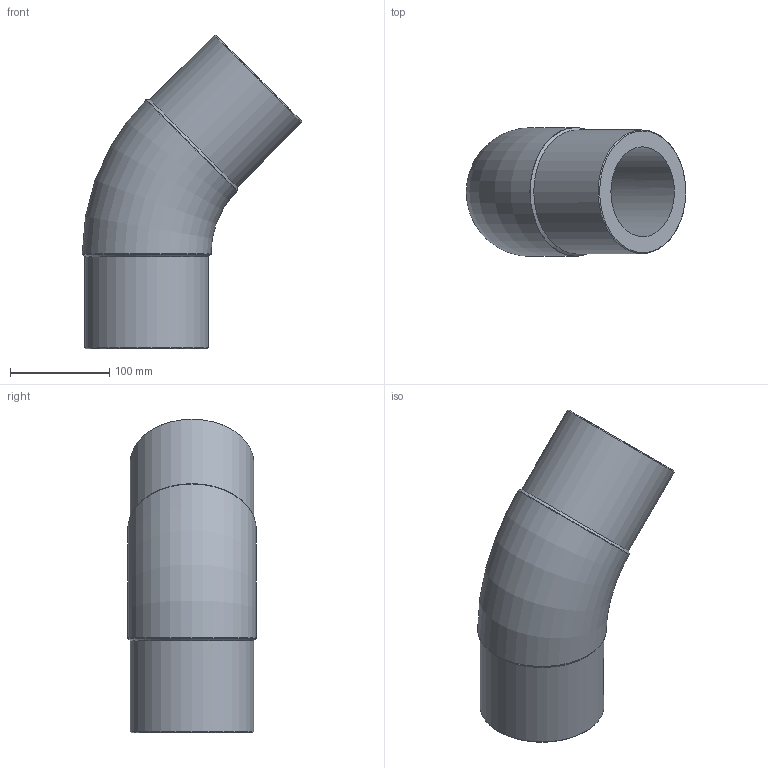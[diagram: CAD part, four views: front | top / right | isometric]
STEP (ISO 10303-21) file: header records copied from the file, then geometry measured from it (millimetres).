
FILE_DESCRIPTION(/* description */ ('Unknown'),/* implementation_level */ '2;1');
FILE_NAME(/* name */ 'G4P125H',/* time_stamp */ '2022-01-21T09:45:17+01:00',/* author */ ('Unknown'),/* organization */ ('Unknown'),/* preprocessor_version */ 'ST-DEVELOPER v18.1',/* originating_system */ 'Solid Edge',/* authorisation */ 'Unknown');
FILE_SCHEMA (('AUTOMOTIVE_DESIGN {1 0 10303 214 3 1 1}'));
Length unit declared in the file: millimetre
Products named in the file (1): G4P125H
Bounding box: 221.62 x 130 x 316.62 mm (x, y, z)
Volume: 1968701.1 mm3; surface area: 226101.9 mm2
Topology: 1 solids, 1 shells, 14 faces, 34 edges, 22 vertices
Faces by surface type: cylinder 6, cone 4, plane 2, torus 2
Full cylindrical faces by diameter (mm): 90.8 x2, 125 x2, 130 x2
Entity records: 368 total; most frequent: CARTESIAN_POINT 68, DIRECTION 60, ORIENTED_EDGE 38, AXIS2_PLACEMENT_3D 30, EDGE_LOOP 27, FACE_BOUND 27, EDGE_CURVE 19, VERTEX_POINT 18
